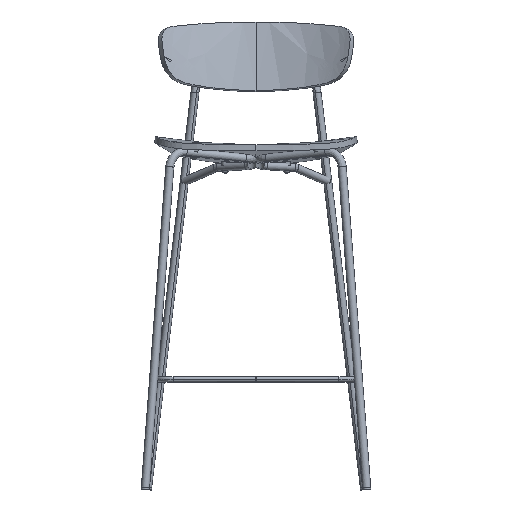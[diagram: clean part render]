
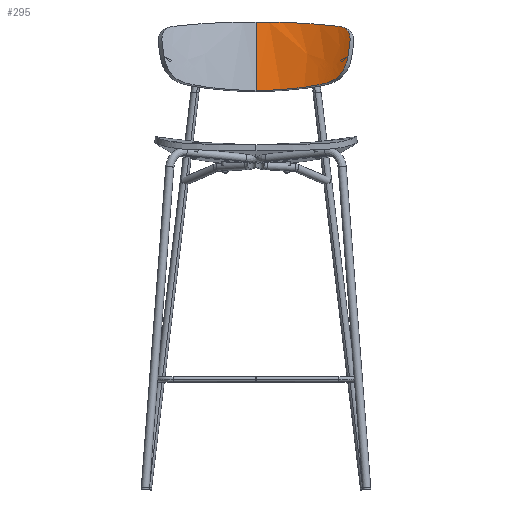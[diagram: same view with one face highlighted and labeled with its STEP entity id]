
A CAD part, front view. The second image highlights one B-rep face of the part: STEP entity #295.
In plain terms, the highlighted free-form (B-spline) face has degree [3, 2] with [5, 3] control points.
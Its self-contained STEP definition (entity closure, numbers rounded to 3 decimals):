
#98=(
BOUNDED_SURFACE()
B_SPLINE_SURFACE(3,2,((#7860,#7861,#7862),(#7863,#7864,#7865),(#7866,#7867,
#7868),(#7869,#7870,#7871),(#7872,#7873,#7874)),.UNSPECIFIED.,.F.,.F.,.F.)
B_SPLINE_SURFACE_WITH_KNOTS((4,1,4),(3,3),(-5.332,70.057,
145.446),(-3.978,234.884),.UNSPECIFIED.)
GEOMETRIC_REPRESENTATION_ITEM()
RATIONAL_B_SPLINE_SURFACE(((1.003,0.898,0.898),
(1.003,0.898,0.898),(1.003,
0.898,0.898),(1.003,0.898,
0.898),(1.003,0.898,0.898)))
REPRESENTATION_ITEM('')
SURFACE()
);
#295=ADVANCED_FACE('',(#485),#98,.T.);
#485=FACE_OUTER_BOUND('',#677,.T.);
#677=EDGE_LOOP('',(#1391,#1392));
#1391=ORIENTED_EDGE('',*,*,#1841,.T.);
#1392=ORIENTED_EDGE('',*,*,#1839,.T.);
#1839=EDGE_CURVE('',#2509,#2508,#2095,.T.);
#1841=EDGE_CURVE('',#2508,#2509,#2259,.T.);
#2095=(
BOUNDED_CURVE()
B_SPLINE_CURVE(3,(#8074,#8075,#8076,#8077,#8078,#8079,#8080),
 .UNSPECIFIED.,.F.,.F.)
B_SPLINE_CURVE_WITH_KNOTS((4,3,4),(-140.114,-70.057,
0.),.UNSPECIFIED.)
CURVE()
GEOMETRIC_REPRESENTATION_ITEM()
RATIONAL_B_SPLINE_CURVE((1.,0.965,0.931,0.898,
0.931,0.965,1.))
REPRESENTATION_ITEM('')
);
#2259=B_SPLINE_CURVE_WITH_KNOTS('',3,(#8088,#8089,#8090,#8091,#8092,#8093,
#8094,#8095,#8096,#8097,#8098,#8099,#8100,#8101,#8102,#8103,#8104,#8105,
#8106,#8107,#8108,#8109,#8110,#8111,#8112,#8113,#8114,#8115,#8116,#8117,
#8118,#8119,#8120,#8121,#8122,#8123),.UNSPECIFIED.,.F.,.F.,(4,2,3,2,2,2,
2,3,3,2,2,2,2,3,2,4),(-142.402,-73.146,-3.882,
-3.638,-3.393,-3.269,-3.139,-2.882,
25.85,26.111,26.242,26.365,26.608,
26.85,115.079,203.244),.UNSPECIFIED.);
#2508=VERTEX_POINT('',#8070);
#2509=VERTEX_POINT('',#8071);
#7860=CARTESIAN_POINT('',(189.507,139.669,803.515));
#7861=CARTESIAN_POINT('',(105.876,202.929,788.902));
#7862=CARTESIAN_POINT('',(0.,202.929,788.902));
#7863=CARTESIAN_POINT('',(189.507,143.816,828.328));
#7864=CARTESIAN_POINT('',(105.876,207.076,813.714));
#7865=CARTESIAN_POINT('',(0.,207.076,813.714));
#7866=CARTESIAN_POINT('',(189.507,153.615,877.605));
#7867=CARTESIAN_POINT('',(105.876,216.875,862.992));
#7868=CARTESIAN_POINT('',(0.,216.875,862.992));
#7869=CARTESIAN_POINT('',(189.507,166.422,926.187));
#7870=CARTESIAN_POINT('',(105.876,229.682,911.574));
#7871=CARTESIAN_POINT('',(0.,229.682,911.574));
#7872=CARTESIAN_POINT('',(189.507,173.578,950.305));
#7873=CARTESIAN_POINT('',(105.876,236.838,935.691));
#7874=CARTESIAN_POINT('',(0.,236.838,935.691));
#8070=CARTESIAN_POINT('',(0.,203.82,794.164));
#8071=CARTESIAN_POINT('',(0.,235.331,930.572));
#8074=CARTESIAN_POINT('',(0.,235.331,930.572));
#8075=CARTESIAN_POINT('',(0.,228.78,908.137));
#8076=CARTESIAN_POINT('',(0.,222.879,885.552));
#8077=CARTESIAN_POINT('',(0.,217.627,862.818));
#8078=CARTESIAN_POINT('',(0.,212.375,840.083));
#8079=CARTESIAN_POINT('',(0.,207.773,817.199));
#8080=CARTESIAN_POINT('',(0.,203.82,794.164));
#8088=CARTESIAN_POINT('',(0.,203.82,794.164));
#8089=CARTESIAN_POINT('',(23.683,203.82,794.164));
#8090=CARTESIAN_POINT('',(46.989,201.262,795.363));
#8091=CARTESIAN_POINT('',(91.817,191.58,799.913));
#8092=CARTESIAN_POINT('',(113.343,184.459,803.262));
#8093=CARTESIAN_POINT('',(133.581,175.38,807.55));
#8094=CARTESIAN_POINT('',(139.282,172.822,808.758));
#8095=CARTESIAN_POINT('',(144.911,170.174,810.527));
#8096=CARTESIAN_POINT('',(155.532,165.106,815.673));
#8097=CARTESIAN_POINT('',(160.555,162.669,819.06));
#8098=CARTESIAN_POINT('',(167.322,159.595,825.846));
#8099=CARTESIAN_POINT('',(169.428,158.683,828.396));
#8100=CARTESIAN_POINT('',(173.213,157.184,833.913));
#8101=CARTESIAN_POINT('',(174.902,156.597,836.924));
#8102=CARTESIAN_POINT('',(179.287,155.396,846.435));
#8103=CARTESIAN_POINT('',(181.349,155.318,853.462));
#8104=CARTESIAN_POINT('',(182.712,155.956,861.093));
#8105=CARTESIAN_POINT('',(184.39,156.743,870.49));
#8106=CARTESIAN_POINT('',(185.724,157.869,879.88));
#8107=CARTESIAN_POINT('',(186.737,159.367,889.34));
#8108=CARTESIAN_POINT('',(187.241,160.113,894.046));
#8109=CARTESIAN_POINT('',(187.241,161.246,898.604));
#8110=CARTESIAN_POINT('',(186.132,163.698,904.851));
#8111=CARTESIAN_POINT('',(185.574,164.645,906.84));
#8112=CARTESIAN_POINT('',(184.062,166.745,910.44));
#8113=CARTESIAN_POINT('',(183.105,167.911,912.098));
#8114=CARTESIAN_POINT('',(179.822,171.501,916.32));
#8115=CARTESIAN_POINT('',(177.15,173.974,918.198));
#8116=CARTESIAN_POINT('',(171.401,178.742,920.797));
#8117=CARTESIAN_POINT('',(168.288,181.065,921.521));
#8118=CARTESIAN_POINT('',(165.154,183.222,921.897));
#8119=CARTESIAN_POINT('',(141.765,199.315,924.709));
#8120=CARTESIAN_POINT('',(115.863,212.358,926.875));
#8121=CARTESIAN_POINT('',(60.273,230.369,929.805));
#8122=CARTESIAN_POINT('',(30.572,235.331,930.572));
#8123=CARTESIAN_POINT('',(0.,235.331,930.572));
